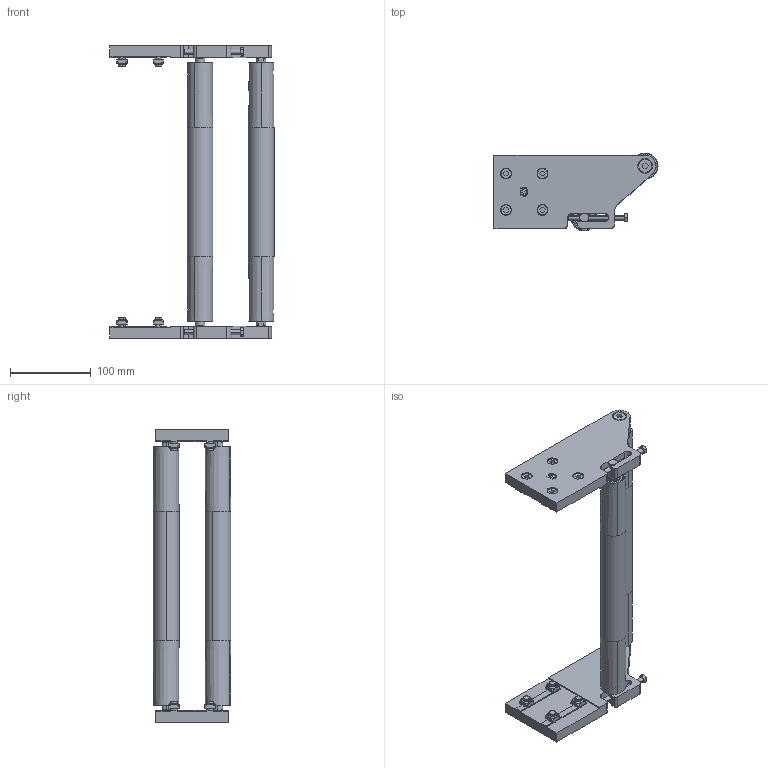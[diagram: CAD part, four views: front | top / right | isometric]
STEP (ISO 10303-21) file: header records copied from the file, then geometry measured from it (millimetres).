
FILE_DESCRIPTION (( 'STEP AP203' ), '1' );
FILE_NAME ('084.095.KP.300.STEP', '2019-07-30T07:54:56', ( '' ), ( '' ), 'SwSTEP 2.0', 'SolidWorks 2018', '' );
FILE_SCHEMA (( 'CONFIG_CONTROL_DESIGN' ));
Length unit declared in the file: millimetre
Products named in the file (11): 084.827.007; 456.015.101_456.015.101 DX; 084.302.000 DADI ALUSIC 13x13-1_084.302.004; 456.015.101_456.015.101 SX; VITI TE UNI 5739_M6x70 UNI 5739; 084.095.KP.300; 084.827.008; 084.301.000 VITI ALUSIC_084.301.003; 084.802.036; VITI TSEI UNI 5933_M8x30 UNI 5933; 084.827.009
Assembly tree (30 placements, depth 2):
  084.095.KP.300
    084.827.009
    084.827.007  x2
    456.015.101_456.015.101 SX
    456.015.101_456.015.101 DX
    084.827.008
    084.802.036  x4
    084.301.000 VITI ALUSIC_084.301.003  x8
    084.302.000 DADI ALUSIC 13x13-1_084.302.004  x8
    VITI TE UNI 5739_M6x70 UNI 5739  x2
    VITI TSEI UNI 5933_M8x30 UNI 5933  x2
Bounding box: 203 x 96.06 x 362 mm (x, y, z)
Volume: 733738.3 mm3; surface area: 260674.1 mm2
Topology: 34 solids, 38 shells, 912 faces, 2198 edges, 1402 vertices
Faces by surface type: plane 323, cylinder 270, torus 136, bspline 99, cone 84
Entity records: 15973 total; most frequent: CARTESIAN_POINT 4028, ORIENTED_EDGE 2184, DIRECTION 2034, EDGE_CURVE 1092, AXIS2_PLACEMENT_3D 756, VERTEX_POINT 708, LINE 522, VECTOR 522
